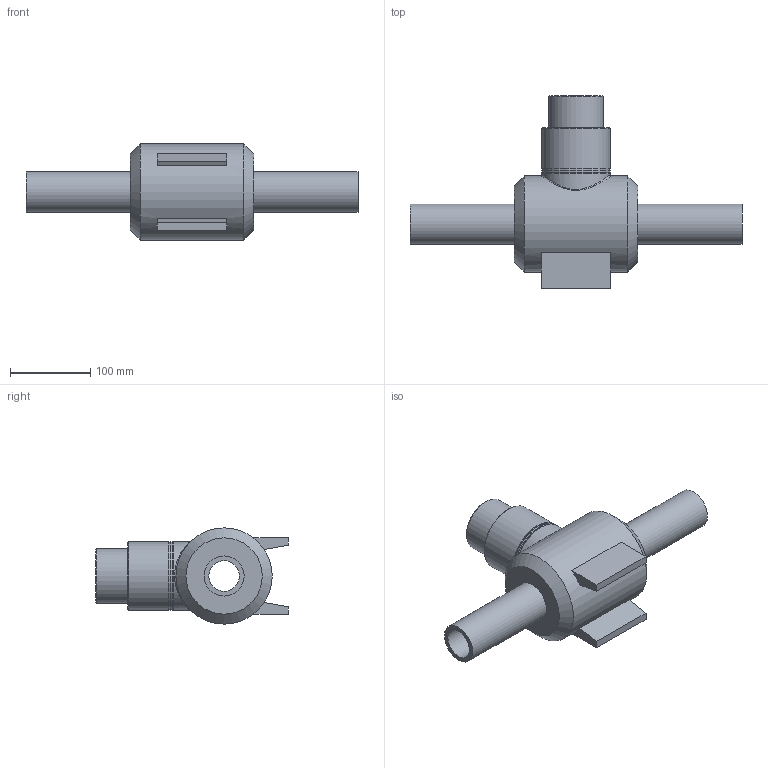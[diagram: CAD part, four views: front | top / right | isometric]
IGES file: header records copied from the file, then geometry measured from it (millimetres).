
Global section: file name: 436207050.ipt; native system: Autodesk Inventor 2015; preprocessor: unknown; author: Кирилл,,11,0; organization: 20170828.110610; date: 20171001.144233; units: millimetre
Bounding box: 414 x 240 x 120 mm (x, y, z)
Volume: 2174365.9 mm3; surface area: 209761.4 mm2
Topology: 1 solids, 1 shells, 33 faces, 81 edges, 54 vertices
Faces by surface type: plane 16, cylinder 7, cone 4, revolution 4, bspline 2
Full cylindrical faces by diameter (mm): 50 x2, 68 x1, 85 x3, 120 x1
